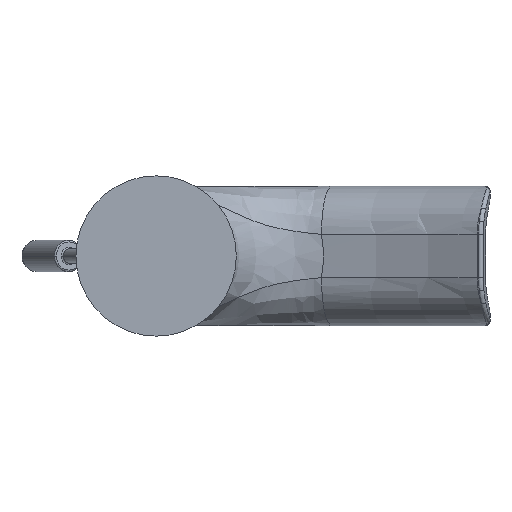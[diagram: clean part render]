
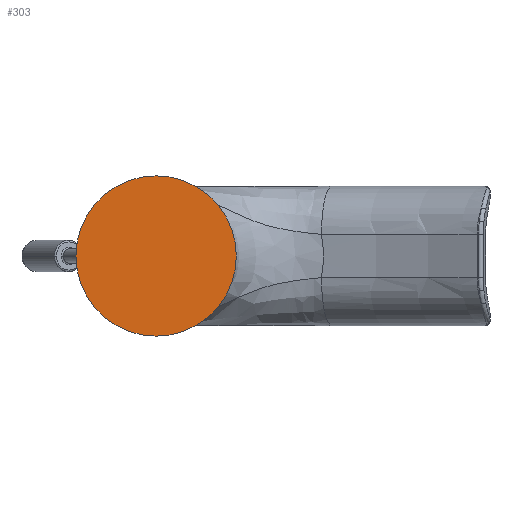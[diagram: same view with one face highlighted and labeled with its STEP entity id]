
A CAD part, front view. The second image highlights one B-rep face of the part: STEP entity #303.
In plain terms, the highlighted planar face has unit normal (0, -1, 0).
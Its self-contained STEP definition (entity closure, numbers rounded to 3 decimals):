
#303 = ADVANCED_FACE ( 'NONE', ( #2471 ), #2247, .F. ) ;
#388 = EDGE_CURVE ( 'NONE', #1445, #1067, #5748, .T. ) ;
#846 = CARTESIAN_POINT ( 'NONE',  ( 0., 0., 0. ) ) ;
#1067 = VERTEX_POINT ( 'NONE', #2268 ) ;
#1301 = DIRECTION ( 'NONE',  ( 0., 0., 1. ) ) ;
#1445 = VERTEX_POINT ( 'NONE', #2407 ) ;
#1462 = AXIS2_PLACEMENT_3D ( 'NONE', #2776, #1907, #2291 ) ;
#1808 = AXIS2_PLACEMENT_3D ( 'NONE', #846, #3939, #1301 ) ;
#1907 = DIRECTION ( 'NONE',  ( 0., 1., 0. ) ) ;
#1917 = CARTESIAN_POINT ( 'NONE',  ( 0., 0., 0. ) ) ;
#2081 = EDGE_LOOP ( 'NONE', ( #3782, #3565 ) ) ;
#2247 = PLANE ( 'NONE',  #1462 ) ;
#2268 = CARTESIAN_POINT ( 'NONE',  ( 0., 0., -25. ) ) ;
#2291 = DIRECTION ( 'NONE',  ( 0., 0., 1. ) ) ;
#2382 = DIRECTION ( 'NONE',  ( 0., 0., 1. ) ) ;
#2407 = CARTESIAN_POINT ( 'NONE',  ( 0., 0., 25. ) ) ;
#2471 = FACE_OUTER_BOUND ( 'NONE', #2081, .T. ) ;
#2776 = CARTESIAN_POINT ( 'NONE',  ( 0., 0., 0. ) ) ;
#3059 = EDGE_CURVE ( 'NONE', #1067, #1445, #4877, .T. ) ;
#3237 = AXIS2_PLACEMENT_3D ( 'NONE', #1917, #4509, #2382 ) ;
#3565 = ORIENTED_EDGE ( 'NONE', *, *, #388, .F. ) ;
#3782 = ORIENTED_EDGE ( 'NONE', *, *, #3059, .F. ) ;
#3939 = DIRECTION ( 'NONE',  ( 0., 1., 0. ) ) ;
#4509 = DIRECTION ( 'NONE',  ( 0., 1., 0. ) ) ;
#4877 = CIRCLE ( 'NONE', #1808, 25. ) ;
#5748 = CIRCLE ( 'NONE', #3237, 25. ) ;
